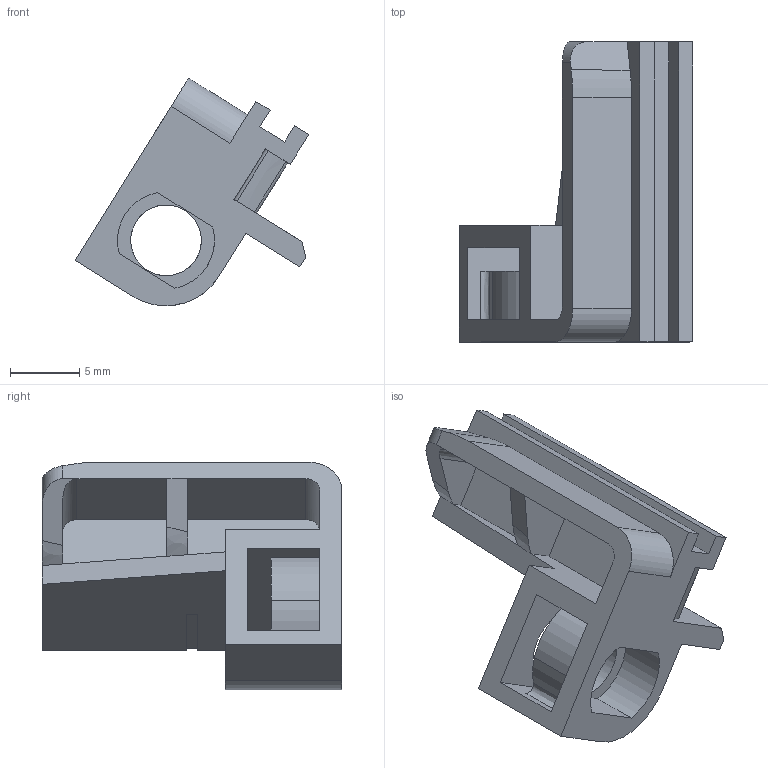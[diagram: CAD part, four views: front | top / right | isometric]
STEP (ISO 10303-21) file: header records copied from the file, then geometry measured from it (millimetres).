
FILE_DESCRIPTION(('CATIA V5 STEP Exchange'),'2;1');
FILE_NAME('C:\Users\Administrator\Desktop\座椅主动阻尼控制系统样件采购申请-\数模\573.4601.04_V1（BPC0010038）.stp','2021-01-28T03:29:11+00:00',('none'),('none'),'CATIA Version 5 Release 21 GA (IN-10)','CATIA V5 STEP AP214','none');
FILE_SCHEMA(('AUTOMOTIVE_DESIGN { 1 0 10303 214 1 1 1 1 }'));
Length unit declared in the file: millimetre
Products named in the file (1): 573.4601.04_V1
Bounding box: 16.86 x 21.63 x 16.42 mm (x, y, z)
Volume: 1361.5 mm3; surface area: 1894.2 mm2
Topology: 1 solids, 2 shells, 125 faces, 366 edges, 245 vertices
Faces by surface type: plane 59, cylinder 29, extrusion 21, bspline 16
Entity records: 5616 total; most frequent: CARTESIAN_POINT 1742, ORIENTED_EDGE 732, DIRECTION 421, EDGE_CURVE 366, VERTEX_POINT 245, VECTOR 226, LINE 205, B_SPLINE_CURVE_WITH_KNOTS 149
